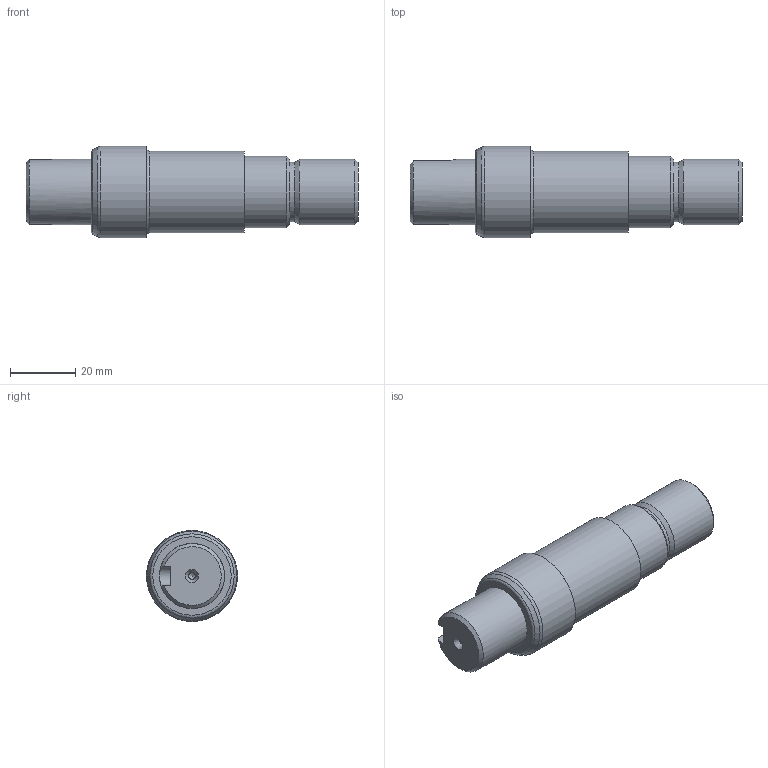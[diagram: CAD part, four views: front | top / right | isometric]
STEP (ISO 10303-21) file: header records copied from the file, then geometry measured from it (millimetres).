
FILE_DESCRIPTION(/* description */ (''),/* implementation_level */ '2;1');
FILE_NAME(/* name */ 'C:\Users\net\Desktop\두견\60100331006-축.stp',/* time_stamp */ '2020-10-17T11:32:31+09:00',/* author */ ('net'),/* organization */ (''),/* preprocessor_version */ 'ST-DEVELOPER v15.2',/* originating_system */ 'Autodesk Inventor 2014',/* authorisation */ '');
FILE_SCHEMA (('AUTOMOTIVE_DESIGN { 1 0 10303 214 3 1 1 }'));
Length unit declared in the file: millimetre
Products named in the file (1): 1017
Bounding box: 102 x 28 x 28 mm (x, y, z)
Volume: 42784.3 mm3; surface area: 8518.4 mm2
Topology: 1 solids, 1 shells, 27 faces, 53 edges, 32 vertices
Faces by surface type: plane 9, cylinder 8, cone 7, torus 3
Full cylindrical faces by diameter (mm): 2 x1, 18.4 x1, 20 x2, 22 x1, 25 x1, 28 x1
Entity records: 634 total; most frequent: CARTESIAN_POINT 117, DIRECTION 111, ORIENTED_EDGE 72, AXIS2_PLACEMENT_3D 51, EDGE_LOOP 47, EDGE_CURVE 36, VERTEX_POINT 31, ADVANCED_FACE 27
